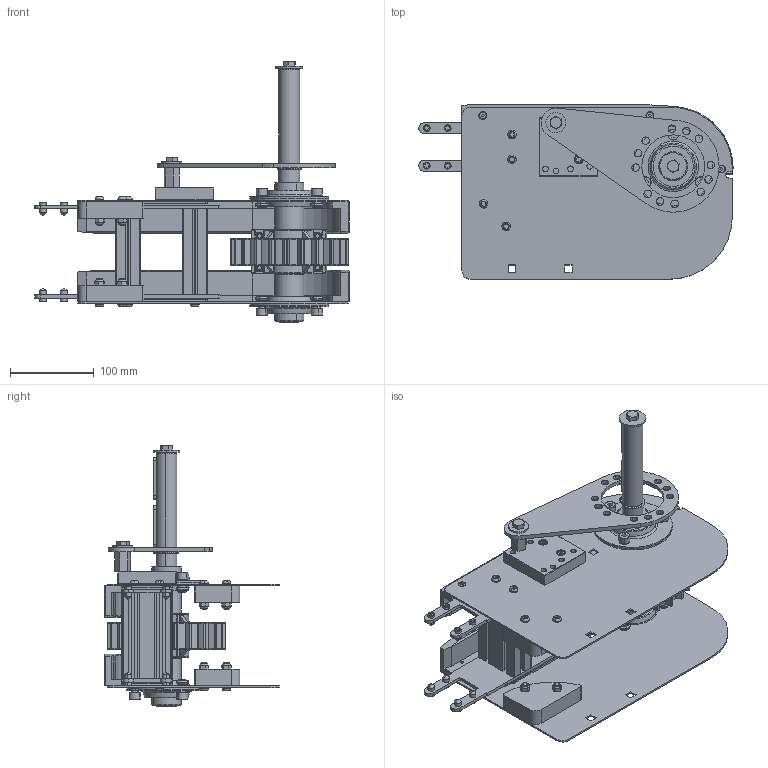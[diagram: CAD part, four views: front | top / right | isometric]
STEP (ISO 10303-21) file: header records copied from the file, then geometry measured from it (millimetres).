
FILE_DESCRIPTION (( 'STEP AP214' ), '1' );
FILE_NAME ('2000.450.163S.STEP', '2021-06-18T07:29:53', ( 'Localadmin' ), ( 'Microsoft' ), 'SwSTEP 2.0', 'SolidWorks 2018', '' );
FILE_SCHEMA (( 'AUTOMOTIVE_DESIGN' ));
Length unit declared in the file: millimetre
Products named in the file (33): 2000.001.021; 2000.001.020; VITI TSEI UNI 5933 INOX_0410UNI5933A2; Circlip DIN 471 - 25 x 1.2_Circlip DIN 471 - 25 x 1.2; RUOTE DI RINVIO NSX881; PU008.012.025N; SBPF 205 INOX; DADI ESAGONALI AUTOBLOCCANTI UNI 7473 INOX_M6 UNI 7473 INOX; 2000.450.002S; VITI TESTA BOMBATA ISO 730 INOX_M6x30 ISO 7380 INOX; 2000.450.001; 084.312.006; 2000.001.011; VITI TESTA BOMBATA ISO 730 INOX_M6x20 ISO 7380 INOX; 2000.001.024; 084.301.000 VITI ALUSIC_084.301.029; 2000.001.026; VITI TE UNI 5739 INOX_M8x16 UNI 5739 INOX; 2000.001.025; 2000.001.001; RONDELLE FASCIA LARGA UNI 6593 INOX_8.4x24 UNI 6593 INOX; 2000.001.006-2; GRANI A PUNTA PIATTA UNI 5923_M8x20 UNI 5923; 084.802.027; RONDELLE FASCIA LARGA UNI 6593 INOX_8.4x32 UNI 6593 INOX; 2000.450.163S; VITI TE UNI 5739 INOX_M8x20 UNI 5739 INOX; CHIAVETTE_A 8x7x50 UNI 6604-69; 2000.001.023; VITI TCEI UNI 5931 INOX_M6x30 UNI 5931 INOX; 084.808.005-1; 2000.450.003; GRANI A PUNTA CONICA UNI 5927_M8x16 UNI 5927
Assembly tree (77 placements, depth 2):
  2000.450.163S
    084.802.027
    2000.001.006-2  x2
    2000.001.001  x2
    2000.001.025
    2000.001.026  x2
    2000.001.024
    2000.001.011
    2000.450.001  x2
    2000.450.002S  x2
    SBPF 205 INOX  x2
    RUOTE DI RINVIO NSX881
    VITI TSEI UNI 5933 INOX_0410UNI5933A2  x8
    GRANI A PUNTA CONICA UNI 5927_M8x16 UNI 5927  x8
    VITI TCEI UNI 5931 INOX_M6x30 UNI 5931 INOX  x2
    VITI TE UNI 5739 INOX_M8x20 UNI 5739 INOX
    RONDELLE FASCIA LARGA UNI 6593 INOX_8.4x32 UNI 6593 INOX
    GRANI A PUNTA PIATTA UNI 5923_M8x20 UNI 5923
    RONDELLE FASCIA LARGA UNI 6593 INOX_8.4x24 UNI 6593 INOX
    VITI TE UNI 5739 INOX_M8x16 UNI 5739 INOX
    084.301.000 VITI ALUSIC_084.301.029  x6
    VITI TESTA BOMBATA ISO 730 INOX_M6x20 ISO 7380 INOX  x6
    084.312.006  x6
    VITI TESTA BOMBATA ISO 730 INOX_M6x30 ISO 7380 INOX  x4
    DADI ESAGONALI AUTOBLOCCANTI UNI 7473 INOX_M6 UNI 7473 INOX  x4
    PU008.012.025N
    Circlip DIN 471 - 25 x 1.2_Circlip DIN 471 - 25 x 1.2
    2000.001.020
    2000.001.021
    2000.450.003  x2
    084.808.005-1
    2000.001.023
    CHIAVETTE_A 8x7x50 UNI 6604-69  x3
Bounding box: 376.25 x 208.8 x 312.33 mm (x, y, z)
Volume: 1791112.7 mm3; surface area: 864257.7 mm2
Topology: 89 solids, 89 shells, 3198 faces, 7725 edges, 4663 vertices
Faces by surface type: plane 1143, cylinder 1085, bspline 592, cone 298, torus 60, sphere 20
Entity records: 77347 total; most frequent: CARTESIAN_POINT 24455, ORIENTED_EDGE 10856, DIRECTION 10463, EDGE_CURVE 5428, AXIS2_PLACEMENT_3D 3993, VERTEX_POINT 3291, EDGE_LOOP 2535, LINE 2477
